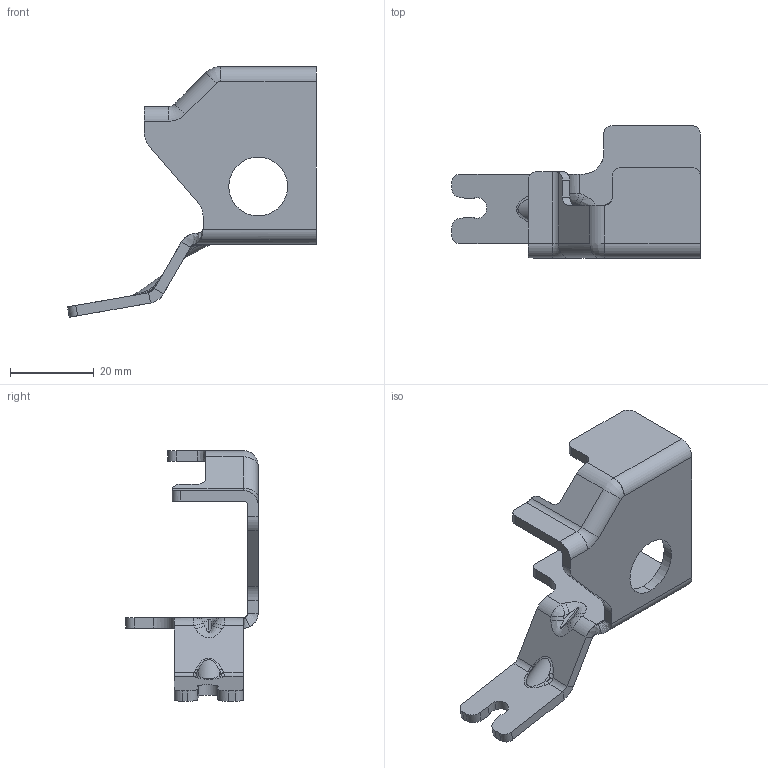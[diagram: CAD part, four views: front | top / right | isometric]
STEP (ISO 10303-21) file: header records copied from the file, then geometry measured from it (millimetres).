
FILE_DESCRIPTION(('CATIA V5 STEP Exchange'),'2;1');
FILE_NAME('C:\Users\nobody\Desktop\SHT0017058.stp','2024-03-08T01:11:48+00:00',('none'),('none'),'CATIA Version 5 Release 20 GA (IN-10)','CATIA V5 STEP AP203 Edition 2','none');
FILE_SCHEMA(('AP203_CONFIGURATION_CONTROLLED_3D_DESIGN_OF_MECHANICAL_PARTS_AND_ASSEMBLIES_MIM_LF { 1 0 10303 403 2 1 2}'));
Length unit declared in the file: millimetre
Products named in the file (1): SHT0017058
Bounding box: 59.27 x 31.5 x 59.66 mm (x, y, z)
Volume: 8096.1 mm3; surface area: 7436.6 mm2
Topology: 1 solids, 1 shells, 145 faces, 361 edges, 218 vertices
Faces by surface type: cylinder 65, plane 41, bspline 34, revolution 2, torus 2, extrusion 1
Entity records: 6813 total; most frequent: CARTESIAN_POINT 3767, ORIENTED_EDGE 722, DIRECTION 436, EDGE_CURVE 361, VERTEX_POINT 218, AXIS2_PLACEMENT_3D 169, VECTOR 166, LINE 165
